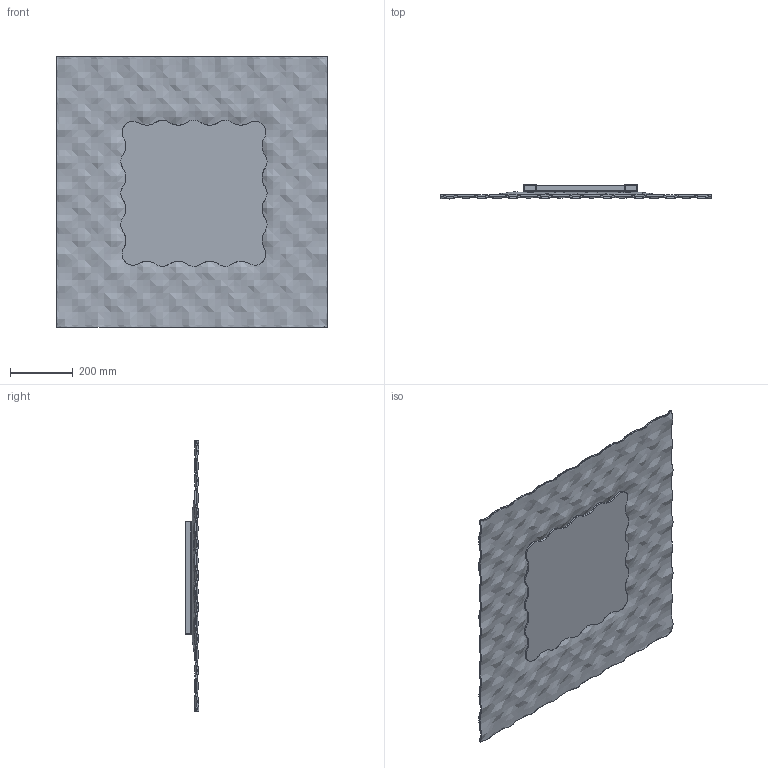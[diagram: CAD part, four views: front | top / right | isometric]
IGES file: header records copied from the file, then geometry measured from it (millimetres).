
Global section: file name: Z:\3D_LQ\POP_rev2021\xWeb\86x86\POP_86x86.igs; native system: Rhinoceros ( Aug 11 2021 ); preprocessor: Trout Lake IGES 012 Aug 11 2021; date: 250221.161220; units: millimetre
Bounding box: 861.77 x 43.87 x 860.67 mm (x, y, z)
Surface area: 2220970.5 mm2 (no closed solid volume)
Topology: 0 solids, 0 shells, 85 faces, 2097 edges, 2092 vertices
Faces by surface type: bspline 85
